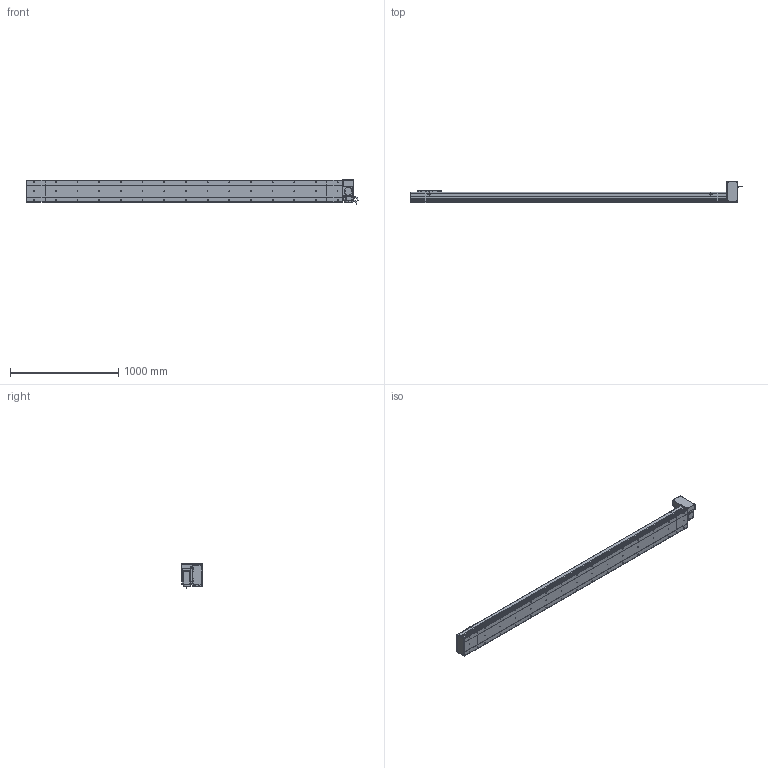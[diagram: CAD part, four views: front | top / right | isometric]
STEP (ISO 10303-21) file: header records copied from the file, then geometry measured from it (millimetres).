
FILE_DESCRIPTION (( 'STEP AP214' ), '1' );
FILE_NAME ('D20 CBH LT S2600.STEP', '2010-06-30T10:22:43', ( 'Conseil Régional Haute-Normandie' ), ( 'Conseil Régional Haute-Normandie' ), 'SwSTEP 2.0', 'SolidWorks 2010', '' );
FILE_SCHEMA (( 'AUTOMOTIVE_DESIGN' ));
Length unit declared in the file: millimetre
Products named in the file (31): Head LT_Default; Couvercle_Default; Plaque De Serrage D20 LT_Default; Couvercle LT_Default; Plaque de Bout Head D20 LT_Default; Corp Tail D20 LT_Default; vis M5 L30_Default; Support Chariot D20_Default; Chariot D20_Default; Cache Support Moteur LT_Default; Couvercle S2600_Default; Glissiere_Default; Corp Tail D20_Default; Corp D20 S2600_Default; vis M5 L47_Default; Conecteur_Default; Support moteur LT_Default; Tail D20_Default; Plaque de Bout Tail D20_Default; Conecteur2_Default; ecrou_Default; avant 90BLDC125A-640; codeur 90BLDC125-640; corps 90BLDC125A-640; Moteur motionking 90BLDC125A-640; Corp S2600_Default; Rondelle Cache D20 LT_Default; Plaque De Serrage D20_Default; vis M5 L15_Default; D20 CBH LT S2600
Assembly tree (66 placements, depth 4):
  D20 CBH LT S2600
    Chariot D20_Default
      vis M5 L15_Default  x8
      Chariot D20_Default
      Glissiere_Default
      Support Chariot D20_Default
    Corp D20 S2600_Default
      Corp S2600_Default
      Couvercle S2600_Default
    Head LT_Default
      vis M5 L15_Default  x12
      vis M5 L47_Default  x4
      vis M5 L30_Default  x4
      Moteur motionking 90BLDC125A-640
        corps 90BLDC125A-640
        avant 90BLDC125A-640
        Conecteur_Default
        Conecteur2_Default
        codeur 90BLDC125-640
      Corp Tail D20 LT_Default
      Support moteur LT_Default
      Couvercle LT_Default
      Plaque de Bout Head D20 LT_Default
      Rondelle Cache D20 LT_Default  x3
      ecrou_Default  x4
      Cache Support Moteur LT_Default
      Plaque De Serrage D20 LT_Default
    Tail D20_Default
      Corp Tail D20_Default
      vis M5 L15_Default  x6
      Plaque De Serrage D20_Default
      Plaque de Bout Tail D20_Default
      Couvercle_Default
Bounding box: 3063.45 x 202.5 x 229.7 mm (x, y, z)
Volume: 20637991.9 mm3; surface area: 4004656.2 mm2
Topology: 103 solids, 103 shells, 3810 faces, 9530 edges, 6196 vertices
Faces by surface type: plane 2107, bspline 806, cylinder 734, torus 91, cone 68, sphere 4
Entity records: 161590 total; most frequent: CARTESIAN_POINT 83380, ORIENTED_EDGE 15528, DIRECTION 11808, EDGE_CURVE 7764, VERTEX_POINT 5140, LINE 4964, VECTOR 4964, AXIS2_PLACEMENT_3D 3422
